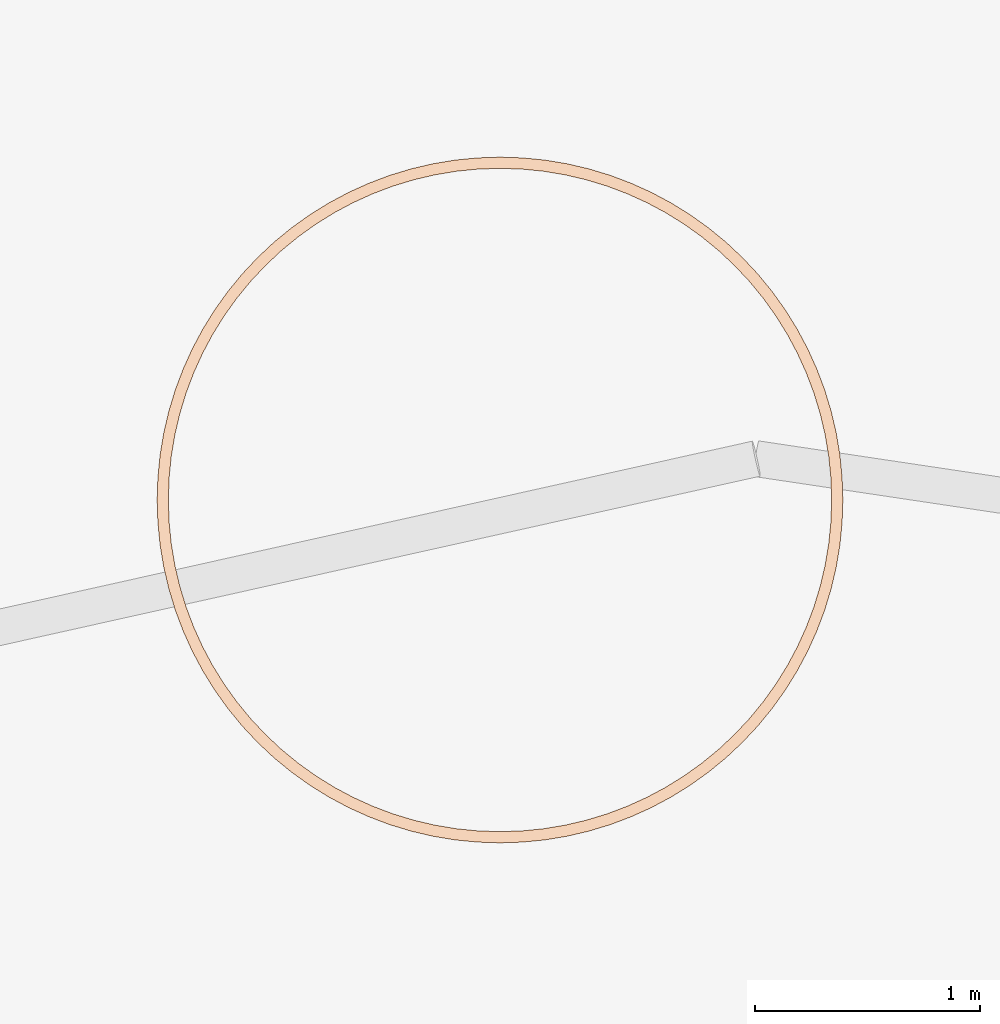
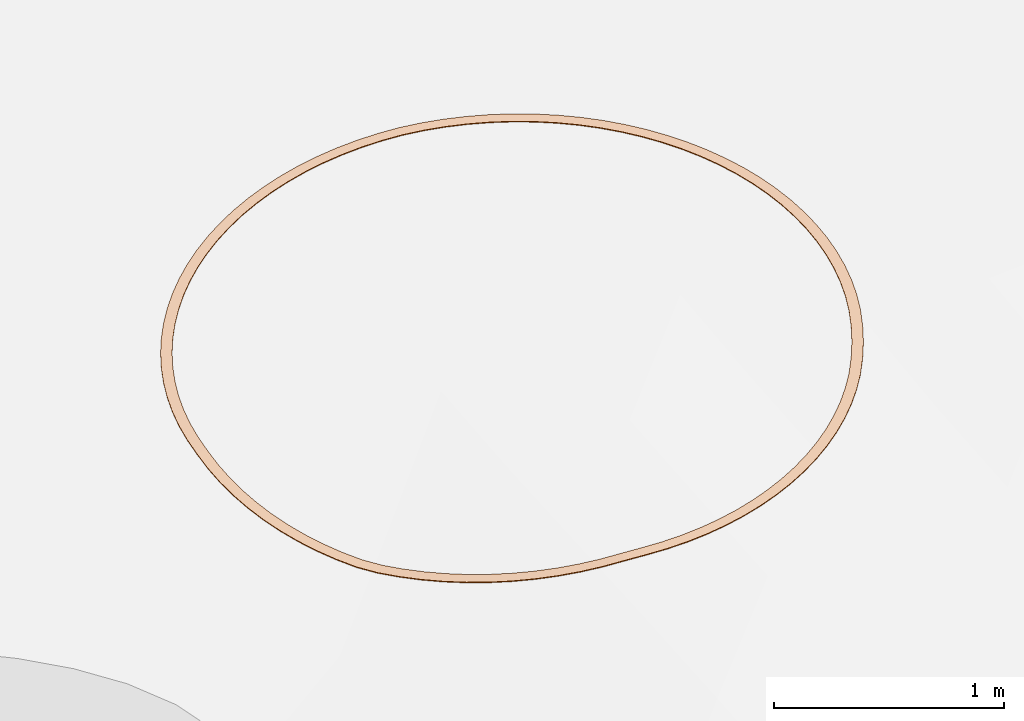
# Not in any storey, part 60 of 72: 1 geographic element.
"""IFC4 model written with IfcOpenShell, lengths in metres."""

from ifc_helpers import new_model, si_unit, direction, frame, origin_with_axes, place, context, subcontext, project, spatial, polygons, material, element, save


model = new_model("IFC4")

# Units and contexts
model_context = context("Model", 3, precision=1e-05, world=origin_with_axes(), true_north=direction((0.0, 1.0)))
body_context = subcontext(model_context, "Body", "Model", "MODEL_VIEW")
ifc_project = project(units=[si_unit("AREAUNIT", "SQUARE_METRE"), si_unit("VOLUMEUNIT", "CUBIC_METRE"), si_unit("LENGTHUNIT", "METRE")], contexts=[model_context])

# Site
site_placement = place(None, origin_with_axes())
site = spatial("IfcSite", under=ifc_project, at=site_placement, Name="Lares · Rua das Mercês · artigo 4771")

# Geographic element
ifc_material = material(Name="Marcação de plantação · linha no terreno", Category="stone")
geographic_element_placement = place(site_placement, frame((0.0, 0.0, 0.0), z_axis=(0.0, 0.0, 1.0), x_axis=(1.0, -1.03767253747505e-17, 0.0)))
element("IfcGeographicElement", 1, at=geographic_element_placement, inside=site, material=ifc_material, Name="Marcação no solo · árvore indicativa 02", ObjectType="Marcação no solo · árvore indicativa 02", PredefinedType="USERDEFINED", context=body_context, shape_type="Tessellation", body=[
    polygons([(4.16338140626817, 8.50666534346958, 12.3839815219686), (4.16338140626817, 8.50666534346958, 12.3879815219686), (4.21338140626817, 8.50666534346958, 12.3871584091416), (4.21338140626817, 8.50666534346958, 12.3911584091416), (4.16022331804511, 8.60313495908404, 12.3911306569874), (4.16022331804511, 8.60313495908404, 12.3951306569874), (4.21011626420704, 8.60640511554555, 12.3945498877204), (4.21011626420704, 8.60640511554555, 12.3985498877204), (4.15076257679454, 8.69919147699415, 12.3978478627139), (4.15076257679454, 8.69919147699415, 12.4018478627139), (4.20033481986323, 8.70571778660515, 12.4014947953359), (4.20033481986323, 8.70571778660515, 12.4054947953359), (4.13503969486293, 8.79442356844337, 12.4041043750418), (4.13503969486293, 8.79442356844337, 12.4081043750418), (4.18407895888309, 8.80417808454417, 12.4079633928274), (4.18407895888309, 8.80417808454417, 12.4119633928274), (4.11312200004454, 8.88842343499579, 12.4098734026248), (4.11312200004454, 8.88842343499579, 12.4138734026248), (4.16141829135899, 8.90136438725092, 12.4139279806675), (4.16141829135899, 8.90136438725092, 12.4179279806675), (4.08510334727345, 8.98078855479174, 12.4151302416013), (4.08510334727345, 8.98078855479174, 12.4191302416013), (4.1324498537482, 8.9968605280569, 12.4193630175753), (4.1324498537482, 8.9968605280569, 12.4233630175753), (4.05110371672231, 9.07112340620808, 12.4198523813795), (4.05110371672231, 9.07112340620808, 12.4238523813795), (4.09729769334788, 9.09025757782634, 12.4242452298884), (4.09729769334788, 9.09025757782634, 12.4282452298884), (4.01126870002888, 9.1590411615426, 12.424019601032), (4.01126870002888, 9.1590411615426, 12.428019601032), (4.05611233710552, 9.18115559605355, 12.4285537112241), (4.05611233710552, 9.18115559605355, 12.4325537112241), (3.96576887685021, 9.24416534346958, 12.4276140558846), (3.96576887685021, 9.24416534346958, 12.4316140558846), (4.00907014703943, 9.26916534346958, 12.4322700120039), (4.00907014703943, 9.26916534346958, 12.4362700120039), (3.91479908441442, 9.32613143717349, 12.4306203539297), (3.91479908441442, 9.32613143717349, 12.4346203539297), (3.95637256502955, 9.35390994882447, 12.4353782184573), (3.95637256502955, 9.35390994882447, 12.4393782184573), (3.85857758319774, 9.40458845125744, 12.4330256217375), (3.85857758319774, 9.40458845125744, 12.4370256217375), (3.8982452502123, 9.43502652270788, 12.437865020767), (3.8982452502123, 9.43502652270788, 12.441865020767), (3.79734512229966, 9.47920042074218, 12.434819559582), (3.79734512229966, 9.47920042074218, 12.438819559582), (3.83493711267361, 9.51216771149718, 12.4397197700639), (3.83493711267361, 9.51216771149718, 12.4437197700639), (3.73136390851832, 9.54964784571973, 12.435994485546), (3.73136390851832, 9.54964784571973, 12.439994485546), (3.76671924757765, 9.58500318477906, 12.4409345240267), (3.76671924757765, 9.58500318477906, 12.4449345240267), (3.66091648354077, 9.61562905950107, 12.4365453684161), (3.66091648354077, 9.61562905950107, 12.4405453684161), (3.69388377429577, 9.65322104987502, 12.4415040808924), (3.69388377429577, 9.65322104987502, 12.4455040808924), (3.58630451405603, 9.67686152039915, 12.4364698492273), (3.58630451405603, 9.67686152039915, 12.4404698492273), (3.61674258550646, 9.71652918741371, 12.4414260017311), (3.61674258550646, 9.71652918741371, 12.4454260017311), (3.50784749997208, 9.73308302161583, 12.4357682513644), (3.50784749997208, 9.73308302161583, 12.4397682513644), (3.53562601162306, 9.77465650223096, 12.4407006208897), (3.53562601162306, 9.77465650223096, 12.4447006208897), (3.42588140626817, 9.78405281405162, 12.434443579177), (3.42588140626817, 9.78405281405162, 12.438443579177), (3.45088140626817, 9.82735408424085, 12.4393310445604), (3.45088140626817, 9.82735408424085, 12.4433310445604), (3.34075722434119, 9.82955263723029, 12.4325015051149), (3.34075722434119, 9.82955263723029, 12.4365015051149), (3.36287165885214, 9.87439627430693, 12.4373231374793), (3.36287165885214, 9.87439627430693, 12.4413231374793), (3.25283946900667, 9.86938765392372, 12.4299503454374), (3.25283946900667, 9.86938765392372, 12.4339503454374), (3.27197364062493, 9.91558163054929, 12.4346854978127), (3.27197364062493, 9.91558163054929, 12.4386854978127), (3.16250461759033, 9.90338728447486, 12.4268010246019), (3.16250461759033, 9.90338728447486, 12.4308010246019), (3.17857659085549, 9.95073379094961, 12.4314294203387), (3.17857659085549, 9.95073379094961, 12.4354294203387), (3.07013949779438, 9.93140593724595, 12.4230670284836), (3.07013949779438, 9.93140593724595, 12.4270670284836), (3.08308045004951, 9.97970222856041, 12.4275688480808), (3.08308045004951, 9.97970222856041, 12.4315688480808), (2.97613963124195, 9.95332363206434, 12.4185183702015), (2.97613963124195, 9.95332363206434, 12.4225183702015), (2.98589414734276, 10.0023628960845, 12.4229092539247), (2.98589414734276, 10.0023628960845, 12.4269092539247), (2.88090753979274, 9.96904651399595, 12.4119199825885), (2.88090753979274, 9.96904651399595, 12.4159199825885), (2.88743384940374, 10.0186187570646, 12.4160871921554), (2.88743384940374, 10.0186187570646, 12.4200871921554), (2.78485102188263, 9.97850725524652, 12.4047951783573), (2.78485102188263, 9.97850725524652, 12.4087951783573), (2.78812117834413, 10.0284002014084, 12.4087208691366), (2.78812117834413, 10.0284002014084, 12.4127208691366), (2.68838140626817, 9.98166534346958, 12.3971744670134), (2.68838140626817, 9.98166534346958, 12.4011744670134), (2.68838140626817, 10.0316653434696, 12.4008418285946), (2.68838140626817, 10.0316653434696, 12.4048418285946), (2.5919117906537, 9.97850725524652, 12.3890904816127), (2.5919117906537, 9.97850725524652, 12.3930904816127), (2.5886416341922, 10.0284002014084, 12.3924838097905), (2.5886416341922, 10.0284002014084, 12.3964838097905), (2.49585527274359, 9.96904651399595, 12.3805778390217), (2.49585527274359, 9.96904651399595, 12.3845778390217), (2.48932896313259, 10.0186187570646, 12.3836826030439), (2.48932896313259, 10.0186187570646, 12.3876826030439), (2.40062318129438, 9.95332363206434, 12.3716729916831), (2.40062318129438, 9.95332363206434, 12.3756729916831), (2.39086866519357, 10.0023628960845, 12.3744758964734), (2.39086866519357, 10.0023628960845, 12.3784758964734), (2.30662331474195, 9.93140593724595, 12.36241407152), (2.30662331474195, 9.93140593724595, 12.36641407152), (2.29368236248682, 9.97970222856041, 12.36490311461), (2.29368236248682, 9.97970222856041, 12.36890311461), (2.214258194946, 9.90338728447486, 12.3528407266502), (2.214258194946, 9.90338728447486, 12.3568407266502), (2.19818622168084, 9.95073379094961, 12.3550052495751), (2.19818622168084, 9.95073379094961, 12.3590052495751), (2.12392334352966, 9.86938765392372, 12.3429939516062), (2.12392334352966, 9.86938765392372, 12.3469939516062), (2.1047891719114, 9.91558163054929, 12.3448246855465), (2.1047891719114, 9.91558163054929, 12.3488246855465), (2.03600558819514, 9.82955263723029, 12.3329159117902), (2.03600558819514, 9.82955263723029, 12.3369159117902), (2.01389115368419, 9.87439627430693, 12.3344050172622), (2.01389115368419, 9.87439627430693, 12.3384050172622), (1.95088140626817, 9.78405281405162, 12.3226497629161), (1.95088140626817, 9.78405281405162, 12.3266497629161), (1.92588140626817, 9.82735408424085, 12.3237908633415), (1.92588140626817, 9.82735408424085, 12.3277908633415), (1.86891531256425, 9.73308302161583, 12.3122394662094), (1.86891531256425, 9.73308302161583, 12.3162394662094), (1.84113680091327, 9.77465650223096, 12.313027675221), (1.84113680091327, 9.77465650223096, 12.317027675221), (1.7904582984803, 9.67686152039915, 12.3017296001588), (1.7904582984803, 9.67686152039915, 12.3057296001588), (1.76002022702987, 9.71652918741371, 12.3021615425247), (1.76002022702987, 9.71652918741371, 12.3061615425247), (1.71584632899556, 9.61562905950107, 12.2911651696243), (1.71584632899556, 9.61562905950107, 12.2951651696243), (1.68287903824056, 9.65322104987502, 12.2912389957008), (1.68287903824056, 9.65322104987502, 12.2952389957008), (1.64539890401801, 9.54964784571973, 12.2805914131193), (1.64539890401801, 9.54964784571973, 12.2845914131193), (1.61004356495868, 9.58500318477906, 12.2803068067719), (1.61004356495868, 9.58500318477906, 12.2843068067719), (1.57941769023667, 9.47920042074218, 12.2700536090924), (1.57941769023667, 9.47920042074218, 12.2740536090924), (1.54182569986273, 9.51216771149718, 12.2694117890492), (1.54182569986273, 9.51216771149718, 12.2734117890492), (1.51818522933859, 9.40458845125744, 12.2599517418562), (1.51818522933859, 9.40458845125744, 12.2639517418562), (1.47851756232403, 9.43502652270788, 12.2589503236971), (1.47851756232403, 9.43502652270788, 12.2629503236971), (1.46196372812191, 9.32613143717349, 12.2505755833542), (1.46196372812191, 9.32613143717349, 12.2545755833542), (1.42039024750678, 9.35390994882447, 12.2492563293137), (1.42039024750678, 9.35390994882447, 12.2532563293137), (1.41099393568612, 9.24416534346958, 12.2413660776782), (1.41099393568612, 9.24416534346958, 12.2453660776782), (1.3676926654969, 9.26916534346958, 12.2397346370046), (1.3676926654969, 9.26916534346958, 12.2437346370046), (1.36549411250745, 9.1590411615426, 12.2323626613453), (1.36549411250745, 9.1590411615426, 12.2363626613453), (1.32065047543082, 9.18115559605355, 12.230426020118), (1.32065047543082, 9.18115559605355, 12.234426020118), (1.32565909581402, 9.07112340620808, 12.2236038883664), (1.32565909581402, 9.07112340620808, 12.2276038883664), (1.27946511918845, 9.09025757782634, 12.2213703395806), (1.27946511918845, 9.09025757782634, 12.2253703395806), (1.29165946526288, 8.98078855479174, 12.2151272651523), (1.29165946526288, 8.98078855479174, 12.2191272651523), (1.24431295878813, 8.9968605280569, 12.2126063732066), (1.24431295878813, 8.9968605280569, 12.2166063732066), (1.26364081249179, 8.8884234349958, 12.2069690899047), (1.26364081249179, 8.8884234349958, 12.2109690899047), (1.21534452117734, 8.90136438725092, 12.2041716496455), (1.21534452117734, 8.90136438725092, 12.2081716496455), (1.2417231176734, 8.79442356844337, 12.1991642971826), (1.2417231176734, 8.79442356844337, 12.2031642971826), (1.19268385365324, 8.80417808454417, 12.1961022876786), (1.19268385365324, 8.80417808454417, 12.2001022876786), (1.22600023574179, 8.69919147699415, 12.1917463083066), (1.22600023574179, 8.69919147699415, 12.1957463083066), (1.1764279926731, 8.70571778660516, 12.1884328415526), (1.1764279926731, 8.70571778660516, 12.1924328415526), (1.21653949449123, 8.60313495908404, 12.1831346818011), (1.21653949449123, 8.60313495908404, 12.1871346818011), (1.1666465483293, 8.60640511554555, 12.1795671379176), (1.1666465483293, 8.60640511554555, 12.1835671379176), (1.21338140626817, 8.50666534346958, 12.1690509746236), (1.21338140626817, 8.50666534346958, 12.1730509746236), (1.16338140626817, 8.50666534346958, 12.1650060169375), (1.16338140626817, 8.50666534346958, 12.1690060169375), (1.21653949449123, 8.41019572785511, 12.1554782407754), (1.21653949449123, 8.41019572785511, 12.1594782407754), (1.1666465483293, 8.40692557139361, 12.1509731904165), (1.1666465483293, 8.40692557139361, 12.1549731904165), (1.22600023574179, 8.314139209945, 12.1424746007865), (1.22600023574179, 8.314139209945, 12.1464746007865), (1.1764279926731, 8.307612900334, 12.137528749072), (1.1764279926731, 8.307612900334, 12.141528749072), (1.2417231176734, 8.21890711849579, 12.1300957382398), (1.2417231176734, 8.21890711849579, 12.1340957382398), (1.19268385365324, 8.20915260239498, 12.124730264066), (1.19268385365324, 8.20915260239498, 12.128730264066), (1.26364081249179, 8.12490725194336, 12.1183946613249), (1.26364081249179, 8.12490725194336, 12.1223946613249), (1.21534452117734, 8.11196629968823, 12.1126325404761), (1.21534452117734, 8.11196629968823, 12.1166325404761), (1.29165946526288, 8.03254213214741, 12.1074214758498), (1.29165946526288, 8.03254213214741, 12.1114214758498), (1.24431295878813, 8.01647015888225, 12.101287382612), (1.24431295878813, 8.01647015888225, 12.105287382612), (1.32565909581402, 7.94220728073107, 12.0972231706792), (1.32565909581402, 7.94220728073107, 12.1012231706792), (1.27946511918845, 7.92307310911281, 12.0907433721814), (1.27946511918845, 7.92307310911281, 12.0947433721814), (1.36549411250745, 7.85428952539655, 12.0878434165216), (1.36549411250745, 7.85428952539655, 12.0918434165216), (1.32065047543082, 7.8321750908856, 12.0810456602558), (1.32065047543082, 7.8321750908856, 12.0850456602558), (1.41099393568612, 7.76916534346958, 12.0793223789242), (1.41099393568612, 7.76916534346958, 12.0833223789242), (1.3676926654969, 7.74416534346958, 12.0722357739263), (1.3676926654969, 7.74416534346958, 12.0762357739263), (1.46196372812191, 7.68719924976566, 12.0716965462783), (1.46196372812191, 7.68719924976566, 12.0756965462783), (1.42039024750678, 7.65942073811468, 12.0643514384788), (1.42039024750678, 7.65942073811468, 12.0683514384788), (1.51818522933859, 7.60874223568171, 12.0705163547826), (1.51818522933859, 7.60874223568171, 12.0745163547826), (1.47851756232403, 7.57830416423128, 12.0632426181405), (1.47851756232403, 7.57830416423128, 12.0672426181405), (1.57941769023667, 7.53413026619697, 12.0742939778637), (1.57941769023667, 7.53413026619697, 12.0782939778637), (1.54182569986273, 7.50116297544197, 12.0671482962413), (1.54182569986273, 7.50116297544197, 12.0711482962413), (1.64539890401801, 7.46368284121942, 12.0789742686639), (1.64539890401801, 7.46368284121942, 12.0829742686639), (1.61004356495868, 7.42832750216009, 12.0719872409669), (1.61004356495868, 7.42832750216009, 12.0759872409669), (1.71584632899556, 7.39770162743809, 12.0845371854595), (1.71584632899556, 7.39770162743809, 12.0885371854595), (1.68287903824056, 7.36010963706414, 12.0777387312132), (1.68287903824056, 7.36010963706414, 12.0817387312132), (1.7904582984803, 7.33646916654, 12.0909589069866), (1.7904582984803, 7.33646916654, 12.0949589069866), (1.76002022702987, 7.29680149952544, 12.0843781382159), (1.76002022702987, 7.29680149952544, 12.0883781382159), (1.86891531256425, 7.28024766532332, 12.098211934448), (1.86891531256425, 7.28024766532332, 12.102211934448), (1.84113680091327, 7.2386741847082, 12.0918770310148), (1.84113680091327, 7.2386741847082, 12.0958770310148), (1.95088140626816, 7.22927787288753, 12.1062652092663), (1.95088140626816, 7.22927787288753, 12.1102652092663), (1.92588140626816, 7.18597660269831, 12.1002032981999), (1.92588140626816, 7.18597660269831, 12.1042032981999), (2.03600558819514, 7.18377804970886, 12.1150842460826), (2.03600558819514, 7.18377804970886, 12.1190842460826), (2.01389115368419, 7.13893441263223, 12.1093212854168), (2.01389115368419, 7.13893441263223, 12.1133212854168), (2.12392334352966, 7.14394303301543, 12.1246312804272), (2.12392334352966, 7.14394303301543, 12.1286312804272), (2.1047891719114, 7.09774905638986, 12.1191919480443), (2.1047891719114, 7.09774905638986, 12.1231919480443), (2.214258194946, 7.1099434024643, 12.1348654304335), (2.214258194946, 7.1099434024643, 12.1388654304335), (2.19818622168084, 7.06259689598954, 12.1297730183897), (2.19818622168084, 7.06259689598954, 12.1337730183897), (2.30662331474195, 7.0819247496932, 12.1457428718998), (2.30662331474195, 7.0819247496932, 12.1497428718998), (2.29368236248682, 7.03362845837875, 12.1410191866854), (2.29368236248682, 7.03362845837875, 12.1450191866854), (2.40062318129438, 7.06000705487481, 12.1572170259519), (2.40062318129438, 7.06000705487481, 12.1612170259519), (2.39086866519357, 7.01096779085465, 12.1528822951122), (2.39086866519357, 7.01096779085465, 12.1568822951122), (2.49585527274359, 7.04428417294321, 12.163451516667), (2.49585527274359, 7.04428417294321, 12.167451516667), (2.48932896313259, 6.99471192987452, 12.1591001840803), (2.48932896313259, 6.99471192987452, 12.1631001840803), (2.5919117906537, 7.03482343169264, 12.1666562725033), (2.5919117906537, 7.03482343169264, 12.1706562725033), (2.5886416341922, 6.98493048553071, 12.1624135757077), (2.5886416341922, 6.98493048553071, 12.1664135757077), (2.68838140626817, 7.03166534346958, 12.1703969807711), (2.68838140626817, 7.03166534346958, 12.1743969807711), (2.68838140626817, 6.98166534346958, 12.1662810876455), (2.68838140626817, 6.98166534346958, 12.1702810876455), (2.78485102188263, 7.03482343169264, 12.1746576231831), (2.78485102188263, 7.03482343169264, 12.1786576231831), (2.78812117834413, 6.98493048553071, 12.1706861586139), (2.78812117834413, 6.98493048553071, 12.1746861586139), (2.88090753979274, 7.04428417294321, 12.1794199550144), (2.88090753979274, 7.04428417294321, 12.1834199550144), (2.88743384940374, 6.99471192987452, 12.1756099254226), (2.88743384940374, 6.99471192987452, 12.1796099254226), (2.97613963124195, 7.06000705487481, 12.1846635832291), (2.97613963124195, 7.06000705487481, 12.1886635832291), (2.98589414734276, 7.01096779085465, 12.1810313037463), (2.98589414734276, 7.01096779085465, 12.1850313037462), (3.07013949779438, 7.0819247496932, 12.1903660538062), (3.07013949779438, 7.0819247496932, 12.1943660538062), (3.08308045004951, 7.03362845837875, 12.1869270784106), (3.08308045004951, 7.03362845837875, 12.1909270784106), (3.16250461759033, 7.1099434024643, 12.196502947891), (3.16250461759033, 7.1099434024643, 12.200502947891), (3.17857659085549, 7.06259689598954, 12.1932720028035), (3.17857659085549, 7.06259689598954, 12.1972720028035), (3.25283946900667, 7.14394303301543, 12.2030479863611), (3.25283946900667, 7.14394303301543, 12.2070479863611), (3.27197364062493, 7.09774905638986, 12.2000389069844), (3.27197364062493, 7.09774905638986, 12.2040389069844), (3.34075722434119, 7.18377804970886, 12.2099731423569), (3.34075722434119, 7.18377804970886, 12.2139731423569), (3.36287165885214, 7.13893441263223, 12.2071988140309), (3.36287165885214, 7.13893441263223, 12.2111988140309), (3.42588140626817, 7.22927787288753, 12.2172487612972), (3.42588140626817, 7.22927787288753, 12.2212487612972), (3.45088140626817, 7.18597660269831, 12.2147210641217), (3.45088140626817, 7.18597660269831, 12.2187210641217), (3.50784749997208, 7.28024766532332, 12.2248436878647), (3.50784749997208, 7.28024766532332, 12.2288436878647), (3.53562601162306, 7.2386741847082, 12.2225734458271), (3.53562601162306, 7.2386741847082, 12.2265734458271), (3.58630451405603, 7.33646916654, 12.2327253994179), (3.58630451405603, 7.33646916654, 12.2367253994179), (3.61674258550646, 7.29680149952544, 12.2307223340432), (3.61674258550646, 7.29680149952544, 12.2347223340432), (3.66091648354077, 7.39770162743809, 12.240860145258), (3.66091648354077, 7.39770162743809, 12.244860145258), (3.69388377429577, 7.36010963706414, 12.2391328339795), (3.69388377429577, 7.36010963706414, 12.2431328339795), (3.73136390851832, 7.46368284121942, 12.2492130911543), (3.73136390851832, 7.46368284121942, 12.2532130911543), (3.76671924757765, 7.42832750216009, 12.2477689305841), (3.76671924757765, 7.42832750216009, 12.2517689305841), (3.79734512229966, 7.53413026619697, 12.2577484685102), (3.79734512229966, 7.53413026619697, 12.2617484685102), (3.83493711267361, 7.50116297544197, 12.2565936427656), (3.83493711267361, 7.50116297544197, 12.2605936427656), (3.85857758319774, 7.60874223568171, 12.2672990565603), (3.85857758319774, 7.60874223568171, 12.2712990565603), (3.8982452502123, 7.57830416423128, 12.2666052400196), (3.8982452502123, 7.57830416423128, 12.2706052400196), (3.91479908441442, 7.68719924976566, 12.283306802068), (3.91479908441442, 7.68719924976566, 12.287306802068), (3.95637256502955, 7.65942073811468, 12.2831556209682), (3.95637256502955, 7.65942073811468, 12.2871556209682), (3.96576887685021, 7.76916534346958, 12.2993336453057), (3.96576887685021, 7.76916534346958, 12.3033336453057), (4.00907014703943, 7.74416534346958, 12.2997257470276), (4.00907014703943, 7.74416534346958, 12.3037257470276), (4.01126870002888, 7.85428952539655, 12.3153109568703), (4.01126870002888, 7.85428952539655, 12.3193109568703), (4.05611233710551, 7.8321750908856, 12.316244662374), (4.05611233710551, 7.8321750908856, 12.320244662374), (4.05110371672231, 7.94220728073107, 12.3311703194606), (4.05110371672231, 7.94220728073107, 12.3351703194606), (4.09729769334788, 7.92307310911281, 12.3326416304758), (4.09729769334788, 7.92307310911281, 12.3366416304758), (4.08510334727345, 8.03254213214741, 12.3421333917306), (4.08510334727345, 8.03254213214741, 12.3461333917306), (4.1324498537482, 8.01647015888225, 12.3438932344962), (4.1324498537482, 8.01647015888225, 12.3478932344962), (4.11312200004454, 8.12490725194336, 12.3511829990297), (4.11312200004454, 8.12490725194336, 12.3551829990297), (4.16141829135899, 8.11196629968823, 12.3532496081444), (4.16141829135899, 8.11196629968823, 12.3572496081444), (4.13503969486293, 8.21890711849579, 12.3599715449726), (4.13503969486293, 8.21890711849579, 12.3639715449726), (4.18407895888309, 8.20915260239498, 12.3623360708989), (4.18407895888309, 8.20915260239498, 12.3663360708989), (4.15076257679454, 8.314139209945, 12.3684613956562), (4.15076257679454, 8.314139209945, 12.3724613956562), (4.20033481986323, 8.307612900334, 12.3711137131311), (4.20033481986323, 8.307612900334, 12.3751137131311), (4.16022331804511, 8.41019572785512, 12.3764310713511), (4.16022331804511, 8.41019572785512, 12.3804310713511), (4.21011626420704, 8.40692557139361, 12.3793520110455), (4.21011626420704, 8.40692557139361, 12.3833520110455)], [[[5, 7, 3, 1]], [[4, 8, 6, 2]], [[2, 6, 5, 1]], [[7, 8, 4, 3]], [[9, 11, 7, 5]], [[8, 12, 10, 6]], [[6, 10, 9, 5]], [[11, 12, 8, 7]], [[13, 15, 11, 9]], [[12, 16, 14, 10]], [[10, 14, 13, 9]], [[15, 16, 12, 11]], [[17, 19, 15, 13]], [[16, 20, 18, 14]], [[14, 18, 17, 13]], [[19, 20, 16, 15]], [[21, 23, 19, 17]], [[20, 24, 22, 18]], [[18, 22, 21, 17]], [[23, 24, 20, 19]], [[25, 27, 23, 21]], [[24, 28, 26, 22]], [[22, 26, 25, 21]], [[27, 28, 24, 23]], [[29, 31, 27, 25]], [[28, 32, 30, 26]], [[26, 30, 29, 25]], [[31, 32, 28, 27]], [[33, 35, 31, 29]], [[32, 36, 34, 30]], [[30, 34, 33, 29]], [[35, 36, 32, 31]], [[37, 39, 35, 33]], [[36, 40, 38, 34]], [[34, 38, 37, 33]], [[39, 40, 36, 35]], [[41, 43, 39, 37]], [[40, 44, 42, 38]], [[38, 42, 41, 37]], [[43, 44, 40, 39]], [[45, 47, 43, 41]], [[44, 48, 46, 42]], [[42, 46, 45, 41]], [[47, 48, 44, 43]], [[49, 51, 47, 45]], [[48, 52, 50, 46]], [[46, 50, 49, 45]], [[51, 52, 48, 47]], [[53, 55, 51, 49]], [[52, 56, 54, 50]], [[50, 54, 53, 49]], [[55, 56, 52, 51]], [[57, 59, 55, 53]], [[56, 60, 58, 54]], [[54, 58, 57, 53]], [[59, 60, 56, 55]], [[61, 63, 59, 57]], [[60, 64, 62, 58]], [[58, 62, 61, 57]], [[63, 64, 60, 59]], [[65, 67, 63, 61]], [[64, 68, 66, 62]], [[62, 66, 65, 61]], [[67, 68, 64, 63]], [[69, 71, 67, 65]], [[68, 72, 70, 66]], [[66, 70, 69, 65]], [[71, 72, 68, 67]], [[73, 75, 71, 69]], [[72, 76, 74, 70]], [[70, 74, 73, 69]], [[75, 76, 72, 71]], [[77, 79, 75, 73]], [[76, 80, 78, 74]], [[74, 78, 77, 73]], [[79, 80, 76, 75]], [[81, 83, 79, 77]], [[80, 84, 82, 78]], [[78, 82, 81, 77]], [[83, 84, 80, 79]], [[85, 87, 83, 81]], [[84, 88, 86, 82]], [[82, 86, 85, 81]], [[87, 88, 84, 83]], [[89, 91, 87, 85]], [[88, 92, 90, 86]], [[86, 90, 89, 85]], [[91, 92, 88, 87]], [[93, 95, 91, 89]], [[92, 96, 94, 90]], [[90, 94, 93, 89]], [[95, 96, 92, 91]], [[97, 99, 95, 93]], [[96, 100, 98, 94]], [[94, 98, 97, 93]], [[99, 100, 96, 95]], [[101, 103, 99, 97]], [[100, 104, 102, 98]], [[98, 102, 101, 97]], [[103, 104, 100, 99]], [[105, 107, 103, 101]], [[104, 108, 106, 102]], [[102, 106, 105, 101]], [[107, 108, 104, 103]], [[109, 111, 107, 105]], [[108, 112, 110, 106]], [[106, 110, 109, 105]], [[111, 112, 108, 107]], [[113, 115, 111, 109]], [[112, 116, 114, 110]], [[110, 114, 113, 109]], [[115, 116, 112, 111]], [[117, 119, 115, 113]], [[116, 120, 118, 114]], [[114, 118, 117, 113]], [[119, 120, 116, 115]], [[121, 123, 119, 117]], [[120, 124, 122, 118]], [[118, 122, 121, 117]], [[123, 124, 120, 119]], [[125, 127, 123, 121]], [[124, 128, 126, 122]], [[122, 126, 125, 121]], [[127, 128, 124, 123]], [[129, 131, 127, 125]], [[128, 132, 130, 126]], [[126, 130, 129, 125]], [[131, 132, 128, 127]], [[133, 135, 131, 129]], [[132, 136, 134, 130]], [[130, 134, 133, 129]], [[135, 136, 132, 131]], [[137, 139, 135, 133]], [[136, 140, 138, 134]], [[134, 138, 137, 133]], [[139, 140, 136, 135]], [[141, 143, 139, 137]], [[140, 144, 142, 138]], [[138, 142, 141, 137]], [[143, 144, 140, 139]], [[145, 147, 143, 141]], [[144, 148, 146, 142]], [[142, 146, 145, 141]], [[147, 148, 144, 143]], [[149, 151, 147, 145]], [[148, 152, 150, 146]], [[146, 150, 149, 145]], [[151, 152, 148, 147]], [[153, 155, 151, 149]], [[152, 156, 154, 150]], [[150, 154, 153, 149]], [[155, 156, 152, 151]], [[157, 159, 155, 153]], [[156, 160, 158, 154]], [[154, 158, 157, 153]], [[159, 160, 156, 155]], [[161, 163, 159, 157]], [[160, 164, 162, 158]], [[158, 162, 161, 157]], [[163, 164, 160, 159]], [[165, 167, 163, 161]], [[164, 168, 166, 162]], [[162, 166, 165, 161]], [[167, 168, 164, 163]], [[169, 171, 167, 165]], [[168, 172, 170, 166]], [[166, 170, 169, 165]], [[171, 172, 168, 167]], [[173, 175, 171, 169]], [[172, 176, 174, 170]], [[170, 174, 173, 169]], [[175, 176, 172, 171]], [[177, 179, 175, 173]], [[176, 180, 178, 174]], [[174, 178, 177, 173]], [[179, 180, 176, 175]], [[181, 183, 179, 177]], [[180, 184, 182, 178]], [[178, 182, 181, 177]], [[183, 184, 180, 179]], [[185, 187, 183, 181]], [[184, 188, 186, 182]], [[182, 186, 185, 181]], [[187, 188, 184, 183]], [[189, 191, 187, 185]], [[188, 192, 190, 186]], [[186, 190, 189, 185]], [[191, 192, 188, 187]], [[193, 195, 191, 189]], [[192, 196, 194, 190]], [[190, 194, 193, 189]], [[195, 196, 192, 191]], [[197, 199, 195, 193]], [[196, 200, 198, 194]], [[194, 198, 197, 193]], [[199, 200, 196, 195]], [[201, 203, 199, 197]], [[200, 204, 202, 198]], [[198, 202, 201, 197]], [[203, 204, 200, 199]], [[205, 207, 203, 201]], [[204, 208, 206, 202]], [[202, 206, 205, 201]], [[207, 208, 204, 203]], [[209, 211, 207, 205]], [[208, 212, 210, 206]], [[206, 210, 209, 205]], [[211, 212, 208, 207]], [[213, 215, 211, 209]], [[212, 216, 214, 210]], [[210, 214, 213, 209]], [[215, 216, 212, 211]], [[217, 219, 215, 213]], [[216, 220, 218, 214]], [[214, 218, 217, 213]], [[219, 220, 216, 215]], [[221, 223, 219, 217]], [[220, 224, 222, 218]], [[218, 222, 221, 217]], [[223, 224, 220, 219]], [[225, 227, 223, 221]], [[224, 228, 226, 222]], [[222, 226, 225, 221]], [[227, 228, 224, 223]], [[229, 231, 227, 225]], [[228, 232, 230, 226]], [[226, 230, 229, 225]], [[231, 232, 228, 227]], [[233, 235, 231, 229]], [[232, 236, 234, 230]], [[230, 234, 233, 229]], [[235, 236, 232, 231]], [[237, 239, 235, 233]], [[236, 240, 238, 234]], [[234, 238, 237, 233]], [[239, 240, 236, 235]], [[241, 243, 239, 237]], [[240, 244, 242, 238]], [[238, 242, 241, 237]], [[243, 244, 240, 239]], [[245, 247, 243, 241]], [[244, 248, 246, 242]], [[242, 246, 245, 241]], [[247, 248, 244, 243]], [[249, 251, 247, 245]], [[248, 252, 250, 246]], [[246, 250, 249, 245]], [[251, 252, 248, 247]], [[253, 255, 251, 249]], [[252, 256, 254, 250]], [[250, 254, 253, 249]], [[255, 256, 252, 251]], [[257, 259, 255, 253]], [[256, 260, 258, 254]], [[254, 258, 257, 253]], [[259, 260, 256, 255]], [[261, 263, 259, 257]], [[260, 264, 262, 258]], [[258, 262, 261, 257]], [[263, 264, 260, 259]], [[265, 267, 263, 261]], [[264, 268, 266, 262]], [[262, 266, 265, 261]], [[267, 268, 264, 263]], [[269, 271, 267, 265]], [[268, 272, 270, 266]], [[266, 270, 269, 265]], [[271, 272, 268, 267]], [[273, 275, 271, 269]], [[272, 276, 274, 270]], [[270, 274, 273, 269]], [[275, 276, 272, 271]], [[277, 279, 275, 273]], [[276, 280, 278, 274]], [[274, 278, 277, 273]], [[279, 280, 276, 275]], [[281, 283, 279, 277]], [[280, 284, 282, 278]], [[278, 282, 281, 277]], [[283, 284, 280, 279]], [[285, 287, 283, 281]], [[284, 288, 286, 282]], [[282, 286, 285, 281]], [[287, 288, 284, 283]], [[289, 291, 287, 285]], [[288, 292, 290, 286]], [[286, 290, 289, 285]], [[291, 292, 288, 287]], [[293, 295, 291, 289]], [[292, 296, 294, 290]], [[290, 294, 293, 289]], [[295, 296, 292, 291]], [[297, 299, 295, 293]], [[296, 300, 298, 294]], [[294, 298, 297, 293]], [[299, 300, 296, 295]], [[301, 303, 299, 297]], [[300, 304, 302, 298]], [[298, 302, 301, 297]], [[303, 304, 300, 299]], [[305, 307, 303, 301]], [[304, 308, 306, 302]], [[302, 306, 305, 301]], [[307, 308, 304, 303]], [[309, 311, 307, 305]], [[308, 312, 310, 306]], [[306, 310, 309, 305]], [[311, 312, 308, 307]], [[313, 315, 311, 309]], [[312, 316, 314, 310]], [[310, 314, 313, 309]], [[315, 316, 312, 311]], [[317, 319, 315, 313]], [[316, 320, 318, 314]], [[314, 318, 317, 313]], [[319, 320, 316, 315]], [[321, 323, 319, 317]], [[320, 324, 322, 318]], [[318, 322, 321, 317]], [[323, 324, 320, 319]], [[325, 327, 323, 321]], [[324, 328, 326, 322]], [[322, 326, 325, 321]], [[327, 328, 324, 323]], [[329, 331, 327, 325]], [[328, 332, 330, 326]], [[326, 330, 329, 325]], [[331, 332, 328, 327]], [[333, 335, 331, 329]], [[332, 336, 334, 330]], [[330, 334, 333, 329]], [[335, 336, 332, 331]], [[337, 339, 335, 333]], [[336, 340, 338, 334]], [[334, 338, 337, 333]], [[339, 340, 336, 335]], [[341, 343, 339, 337]], [[340, 344, 342, 338]], [[338, 342, 341, 337]], [[343, 344, 340, 339]], [[345, 347, 343, 341]], [[344, 348, 346, 342]], [[342, 346, 345, 341]], [[347, 348, 344, 343]], [[349, 351, 347, 345]], [[348, 352, 350, 346]], [[346, 350, 349, 345]], [[351, 352, 348, 347]], [[353, 355, 351, 349]], [[352, 356, 354, 350]], [[350, 354, 353, 349]], [[355, 356, 352, 351]], [[357, 359, 355, 353]], [[356, 360, 358, 354]], [[354, 358, 357, 353]], [[359, 360, 356, 355]], [[361, 363, 359, 357]], [[360, 364, 362, 358]], [[358, 362, 361, 357]], [[363, 364, 360, 359]], [[365, 367, 363, 361]], [[364, 368, 366, 362]], [[362, 366, 365, 361]], [[367, 368, 364, 363]], [[369, 371, 367, 365]], [[368, 372, 370, 366]], [[366, 370, 369, 365]], [[371, 372, 368, 367]], [[373, 375, 371, 369]], [[372, 376, 374, 370]], [[370, 374, 373, 369]], [[375, 376, 372, 371]], [[377, 379, 375, 373]], [[376, 380, 378, 374]], [[374, 378, 377, 373]], [[379, 380, 376, 375]], [[381, 383, 379, 377]], [[380, 384, 382, 378]], [[378, 382, 381, 377]], [[383, 384, 380, 379]], [[1, 3, 383, 381]], [[384, 4, 2, 382]], [[382, 2, 1, 381]], [[3, 4, 384, 383]]]),
])

save(model, "model.ifc")
